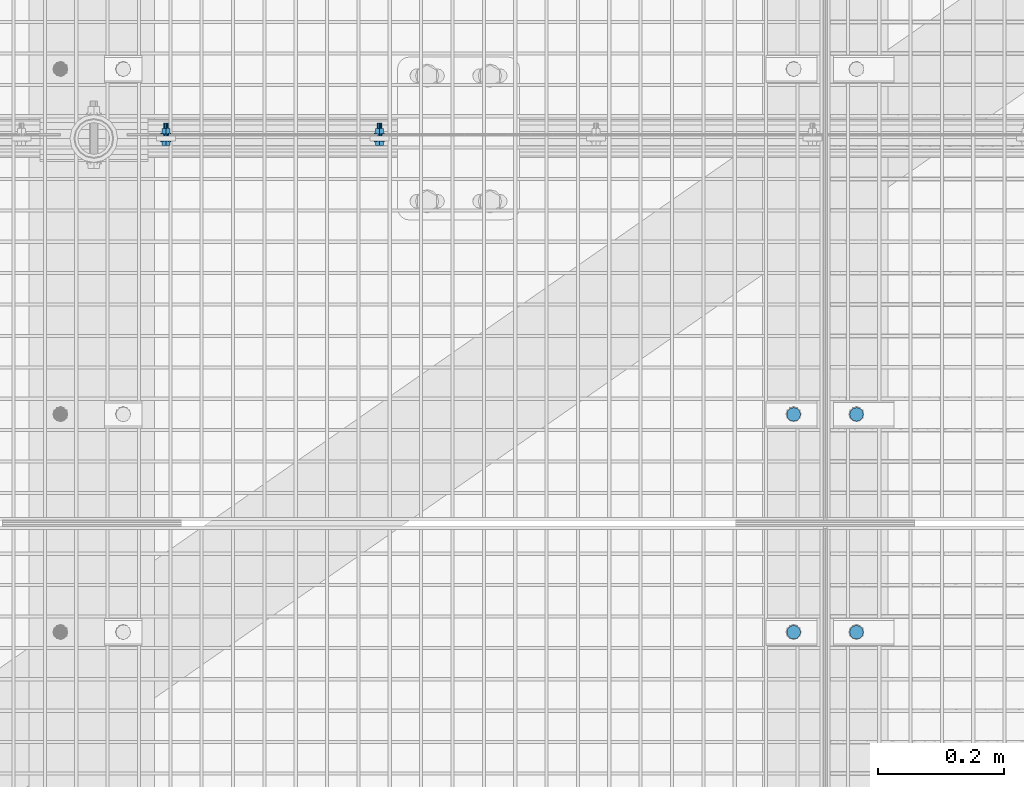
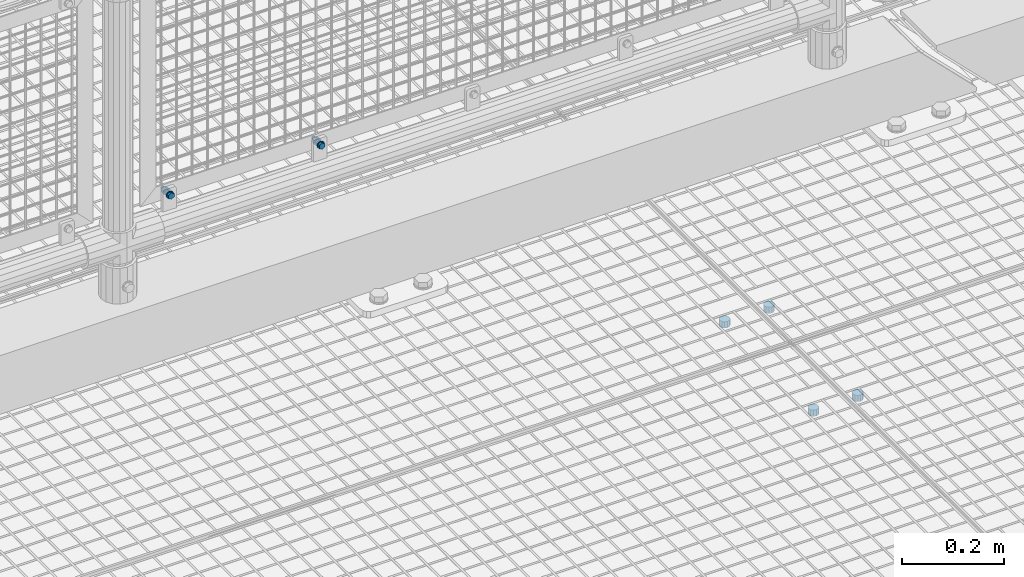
# One storey, part 99 of 1530: 6 mechanical fasteners.
"""IFC2X3 building model written with IfcOpenShell, lengths in millimetres."""

from ifc_helpers import new_model, si_unit, frame, origin_with_axes, place, context, subcontext, project, spatial, faceted_brep, source, transform, mapped, material, type_object, element, save


model = new_model("IFC2X3")

# Units and contexts
model_context = context("Model", 3, precision=1e-05, world=origin_with_axes())
body_context = subcontext(model_context, "Body", "Model", "MODEL_VIEW")
ifc_project = project(units=[si_unit("LENGTHUNIT", "METRE", prefix="MILLI"), si_unit("AREAUNIT", "SQUARE_METRE"), si_unit("VOLUMEUNIT", "CUBIC_METRE"), si_unit("MASSUNIT", "GRAM", prefix="KILO"), si_unit("TIMEUNIT", "SECOND"), si_unit("PLANEANGLEUNIT", "RADIAN"), si_unit("SOLIDANGLEUNIT", "STERADIAN"), si_unit("THERMODYNAMICTEMPERATUREUNIT", "DEGREE_CELSIUS"), si_unit("LUMINOUSINTENSITYUNIT", "LUMEN")], contexts=[model_context])

# Site, building, storey
site_placement = place(None, origin_with_axes())
site = spatial("IfcSite", under=ifc_project, at=site_placement, Name="Brattvåg", CompositionType="ELEMENT")
building_placement = place(site_placement, origin_with_axes())
building = spatial("IfcBuilding", under=site, at=building_placement, Name="Undefined", CompositionType="ELEMENT")
storey_placement = place(building_placement, origin_with_axes())
storey = spatial("IfcBuildingStorey", under=building, at=storey_placement, Name="Undefined", CompositionType="ELEMENT", Elevation=0.0)

# Mechanical fasteners
ifc_material = material(Name="8")
mechanical_fastener_type = type_object("IfcMechanicalFastenerType", Name="Bolt assembly")
shared_shape_1 = source(origin_with_axes(), body_context, "Body", "Brep", [
    faceted_brep([(11.0, -4.99999999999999, 0.0), (9.52627944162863, -4.99999999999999, 5.50000000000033), (5.49999999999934, -4.99999999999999, 9.5262794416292), (-1.13996957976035e-12, -4.99999999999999, 11.0), (-5.50000000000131, -4.99999999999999, 9.52627944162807), (-9.52627944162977, -4.99999999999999, 5.49999999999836), (-11.0, -4.99999999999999, -2.27993915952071e-12), (-9.5262794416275, -4.99999999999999, -5.5000000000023), (-5.49999999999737, -4.99999999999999, -9.52627944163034), (3.40769628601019e-12, -4.99999999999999, -11.0), (5.50000000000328, -4.99999999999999, -9.52627944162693), (9.52627944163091, -4.99999999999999, -5.49999999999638), (9.52627944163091, 10.1, -5.49999999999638), (5.50000000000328, 10.1, -9.52627944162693), (3.40769628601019e-12, 10.1, -11.0), (-5.49999999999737, 10.1, -9.52627944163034), (-9.5262794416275, 10.1, -5.5000000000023), (-11.0, 10.1, -2.27993915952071e-12), (-9.52627944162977, 10.1, 5.49999999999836), (-5.50000000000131, 10.1, 9.52627944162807), (-1.13996957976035e-12, 10.1, 11.0), (5.49999999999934, 10.1, 9.5262794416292), (9.52627944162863, 10.1, 5.50000000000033), (11.0, 10.1, 0.0)], [[[0, 1, 2, 3, 4, 5, 6, 7, 8, 9, 10, 11]], [[12, 13, 14, 15, 16, 17, 18, 19, 20, 21, 22, 23]], [[0, 23, 22, 1]], [[1, 22, 21, 2]], [[2, 21, 20, 3]], [[3, 20, 19, 4]], [[4, 19, 18, 5]], [[5, 18, 17, 6]], [[6, 17, 16, 7]], [[7, 16, 15, 8]], [[8, 15, 14, 9]], [[9, 14, 13, 10]], [[10, 13, 12, 11]], [[11, 12, 23, 0]]]),
])
for number, where, z_axis, x_axis, name in (
    (1, (14636.0047793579, 7224.91931152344, -35.0), (0.0, 1.0, 0.0), (1.0, 0.0, 0.0), "Bolt assembly"),
    (2, (14636.0047793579, 6877.99411010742, -35.0), (0.0, 1.0, 0.0), (1.0, 0.0, 0.0), "Bolt assembly"),
    (3, (14536.0148773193, 7224.9904864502, -35.0), (0.0, -1.0, 0.0), (-1.0, 1.99999855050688e-09, 0.0), "Bolt assembly"),
    (4, (14536.0148773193, 6877.99411010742, -35.0), (0.0, -1.0, 0.0), (-1.0, 1.99999855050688e-09, 0.0), "Bolt assembly"),
):
    element("IfcMechanicalFastener", number, at=place(storey_placement, frame(where, z_axis=z_axis, x_axis=x_axis)), inside=storey, type_object=mechanical_fastener_type, material=ifc_material, Name=name, NominalDiameter=20.0, NominalLength=15.0, context=body_context, shape_type="MappedRepresentation", body=[
        mapped(shared_shape_1, transform((0.0, 0.0, 0.0))),
    ])
shared_shape_2 = source(origin_with_axes(), body_context, "Body", "Brep", [
    faceted_brep([(7.50555349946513, -6.899000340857, 0.0), (3.75277674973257, -6.899000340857, 6.5), (-3.75277674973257, -6.899000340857, 6.5), (-7.50555349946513, -6.899000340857, 9.19165206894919e-16), (-3.75277674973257, -6.899000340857, -6.5), (3.75277674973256, -6.899000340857, -6.5), (3.75277674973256, -1.59900015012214, -6.5), (-3.75277674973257, -1.59900015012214, -6.5), (-7.50555349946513, -1.59900015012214, 9.19165206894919e-16), (-3.75277674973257, -1.59900015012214, 6.5), (3.75277674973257, -1.59900015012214, 6.5), (7.50555349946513, -1.59900015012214, 0.0), (4.0, -1.59900015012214, 0.0), (3.46410161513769, -1.59900015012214, 2.00000000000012), (1.99999999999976, -1.59900015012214, 3.46410161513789), (-4.14534392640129e-13, -1.59900015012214, 4.0), (-2.00000000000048, -1.59900015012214, 3.46410161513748), (-3.4641016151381, -1.59900015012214, 1.9999999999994), (-4.0, -1.59900015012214, -8.29068785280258e-13), (-3.46410161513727, -1.59900015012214, -2.00000000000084), (-1.99999999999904, -1.59900015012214, -3.46410161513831), (1.23916228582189e-12, -1.59900015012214, -4.0), (2.00000000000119, -1.59900015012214, -3.46410161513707), (3.46410161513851, -1.59900015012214, -1.99999999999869), (3.46410161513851, 28.4009998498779, -1.99999999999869), (2.00000000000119, 28.4009998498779, -3.46410161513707), (1.23916228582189e-12, 28.4009998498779, -4.0), (-1.99999999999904, 28.4009998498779, -3.46410161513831), (-3.46410161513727, 28.4009998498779, -2.00000000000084), (-4.0, 28.4009998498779, -8.29068785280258e-13), (-3.4641016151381, 28.4009998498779, 1.9999999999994), (-2.00000000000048, 28.4009998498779, 3.46410161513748), (-4.14534392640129e-13, 28.4009998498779, 4.0), (1.99999999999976, 28.4009998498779, 3.46410161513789), (3.46410161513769, 28.4009998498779, 2.00000000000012), (4.0, 28.4009998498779, 0.0), (8.5, -1.59900015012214, 0.0), (7.36121593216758, -1.59900015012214, 4.25000000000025), (4.24999999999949, -1.59900015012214, 7.36121593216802), (-8.80885584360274e-13, -1.59900015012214, 8.5), (-4.25000000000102, -1.59900015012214, 7.36121593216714), (-7.36121593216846, -1.59900015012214, 4.24999999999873), (-8.5, -1.59900015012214, -1.76177116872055e-12), (-7.3612159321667, -1.59900015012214, -4.25000000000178), (-4.24999999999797, -1.59900015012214, -7.3612159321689), (2.63321985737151e-12, -1.59900015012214, -8.5), (4.25000000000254, -1.59900015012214, -7.36121593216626), (7.36121593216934, -1.59900015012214, -4.24999999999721), (7.36121593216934, 0.000999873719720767, -4.24999999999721), (4.25000000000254, 0.000999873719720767, -7.36121593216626), (2.63321985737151e-12, 0.000999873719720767, -8.5), (-4.24999999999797, 0.000999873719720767, -7.3612159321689), (-7.3612159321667, 0.000999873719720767, -4.25000000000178), (-8.5, 0.000999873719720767, -1.76177116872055e-12), (-7.36121593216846, 0.000999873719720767, 4.24999999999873), (-4.25000000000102, 0.000999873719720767, 7.36121593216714), (-8.80885584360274e-13, 0.000999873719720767, 8.5), (4.24999999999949, 0.000999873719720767, 7.36121593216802), (7.36121593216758, 0.000999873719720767, 4.25000000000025), (8.5, 0.000999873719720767, 0.0), (8.5, 11.5044159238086, 0.0), (7.36121593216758, 11.5044159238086, 4.25000000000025), (4.24999999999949, 11.5044159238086, 7.36121593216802), (-8.80885584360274e-13, 11.5044159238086, 8.5), (-4.25000000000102, 11.5044159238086, 7.36121593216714), (-7.36121593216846, 11.5044159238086, 4.24999999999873), (-8.5, 11.5044159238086, -1.76177116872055e-12), (-7.3612159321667, 11.5044159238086, -4.25000000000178), (-4.24999999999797, 11.5044159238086, -7.3612159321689), (2.63321985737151e-12, 11.5044159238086, -8.5), (4.25000000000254, 11.5044159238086, -7.36121593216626), (7.36121593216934, 11.5044159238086, -4.24999999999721), (7.36121593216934, 13.1044159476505, -4.24999999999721), (4.25000000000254, 13.1044159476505, -7.36121593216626), (2.63321985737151e-12, 13.1044159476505, -8.5), (-4.24999999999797, 13.1044159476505, -7.3612159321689), (-7.3612159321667, 13.1044159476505, -4.25000000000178), (-8.5, 13.1044159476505, -1.76177116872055e-12), (-7.36121593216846, 13.1044159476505, 4.24999999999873), (-4.25000000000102, 13.1044159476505, 7.36121593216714), (-8.80885584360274e-13, 13.1044159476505, 8.5), (4.24999999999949, 13.1044159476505, 7.36121593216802), (7.36121593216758, 13.1044159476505, 4.25000000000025), (8.5, 13.1044159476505, 0.0), (7.50555349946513, 13.1044159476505, 0.0), (3.75277674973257, 13.1044159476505, 6.5), (-3.75277674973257, 13.1044159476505, 6.5), (-7.50555349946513, 13.1044159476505, 9.19165206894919e-16), (-3.75277674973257, 13.1044159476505, -6.5), (3.75277674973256, 13.1044159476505, -6.5), (3.75277674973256, 19.9044161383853, -6.5), (-3.75277674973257, 19.9044161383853, -6.5), (-7.50555349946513, 19.9044161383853, 9.19165206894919e-16), (-3.75277674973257, 19.9044161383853, 6.5), (3.75277674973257, 19.9044161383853, 6.5), (7.50555349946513, 19.9044161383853, 0.0)], [[[0, 1, 2, 3, 4, 5]], [[6, 7, 8, 9, 10, 11]], [[0, 11, 10, 1]], [[1, 10, 9, 2]], [[2, 9, 8, 3]], [[3, 8, 7, 4]], [[4, 7, 6, 5]], [[5, 6, 11, 0]], [[12, 13, 14, 15, 16, 17, 18, 19, 20, 21, 22, 23]], [[24, 25, 26, 27, 28, 29, 30, 31, 32, 33, 34, 35]], [[12, 35, 34, 13]], [[13, 34, 33, 14]], [[14, 33, 32, 15]], [[15, 32, 31, 16]], [[16, 31, 30, 17]], [[17, 30, 29, 18]], [[18, 29, 28, 19]], [[19, 28, 27, 20]], [[20, 27, 26, 21]], [[21, 26, 25, 22]], [[22, 25, 24, 23]], [[23, 24, 35, 12]], [[36, 37, 38, 39, 40, 41, 42, 43, 44, 45, 46, 47]], [[48, 49, 50, 51, 52, 53, 54, 55, 56, 57, 58, 59]], [[36, 59, 58, 37]], [[37, 58, 57, 38]], [[38, 57, 56, 39]], [[39, 56, 55, 40]], [[40, 55, 54, 41]], [[41, 54, 53, 42]], [[42, 53, 52, 43]], [[43, 52, 51, 44]], [[44, 51, 50, 45]], [[45, 50, 49, 46]], [[46, 49, 48, 47]], [[47, 48, 59, 36]], [[60, 61, 62, 63, 64, 65, 66, 67, 68, 69, 70, 71]], [[72, 73, 74, 75, 76, 77, 78, 79, 80, 81, 82, 83]], [[60, 83, 82, 61]], [[61, 82, 81, 62]], [[62, 81, 80, 63]], [[63, 80, 79, 64]], [[64, 79, 78, 65]], [[65, 78, 77, 66]], [[66, 77, 76, 67]], [[67, 76, 75, 68]], [[68, 75, 74, 69]], [[69, 74, 73, 70]], [[70, 73, 72, 71]], [[71, 72, 83, 60]], [[84, 85, 86, 87, 88, 89]], [[90, 91, 92, 93, 94, 95]], [[84, 95, 94, 85]], [[85, 94, 93, 86]], [[86, 93, 92, 87]], [[87, 92, 91, 88]], [[88, 91, 90, 89]], [[89, 90, 95, 84]]]),
    faceted_brep([(5.0, 0.100999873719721, 0.0), (4.33012701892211, 0.100999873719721, 2.50000000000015), (2.4999999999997, 0.100999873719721, 4.33012701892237), (-5.18167990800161e-13, 0.100999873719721, 5.0), (-2.5000000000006, 0.100999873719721, 4.33012701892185), (-4.33012701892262, 0.100999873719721, 2.49999999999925), (-5.0, 0.100999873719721, -1.03633598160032e-12), (-4.33012701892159, 0.100999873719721, -2.50000000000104), (-2.49999999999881, 0.100999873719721, -4.33012701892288), (1.54895285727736e-12, 0.100999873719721, -5.0), (2.50000000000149, 0.100999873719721, -4.33012701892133), (4.33012701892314, 0.100999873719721, -2.49999999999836), (4.33012701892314, 8.10099988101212, -2.49999999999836), (2.50000000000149, 8.10099988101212, -4.33012701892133), (1.54895285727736e-12, 8.10099988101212, -5.0), (-2.49999999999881, 8.10099988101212, -4.33012701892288), (-4.33012701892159, 8.10099988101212, -2.50000000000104), (-5.0, 8.10099988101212, -1.03633598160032e-12), (-4.33012701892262, 8.10099988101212, 2.49999999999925), (-2.5000000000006, 8.10099988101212, 4.33012701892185), (-5.18167990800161e-13, 8.10099988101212, 5.0), (2.4999999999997, 8.10099988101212, 4.33012701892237), (4.33012701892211, 8.10099988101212, 2.50000000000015), (5.0, 8.10099988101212, 0.0), (5.0, 8.40441592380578, 0.0), (4.33012701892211, 8.40441592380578, 2.50000000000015), (2.4999999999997, 8.40441592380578, 4.33012701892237), (-5.18167990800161e-13, 8.40441592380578, 5.0), (-2.5000000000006, 8.40441592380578, 4.33012701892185), (-4.33012701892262, 8.40441592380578, 2.49999999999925), (-5.0, 8.40441592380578, -1.03633598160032e-12), (-4.33012701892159, 8.40441592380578, -2.50000000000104), (-2.49999999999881, 8.40441592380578, -4.33012701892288), (1.54895285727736e-12, 8.40441592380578, -5.0), (2.50000000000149, 8.40441592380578, -4.33012701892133), (4.33012701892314, 8.40441592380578, -2.49999999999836), (4.33012701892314, 11.5044159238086, -2.49999999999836), (2.50000000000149, 11.5044159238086, -4.33012701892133), (1.54895285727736e-12, 11.5044159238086, -5.0), (-2.49999999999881, 11.5044159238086, -4.33012701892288), (-4.33012701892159, 11.5044159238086, -2.50000000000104), (-5.0, 11.5044159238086, -1.03633598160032e-12), (-4.33012701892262, 11.5044159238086, 2.49999999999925), (-2.5000000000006, 11.5044159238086, 4.33012701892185), (-5.18167990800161e-13, 11.5044159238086, 5.0), (2.4999999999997, 11.5044159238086, 4.33012701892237), (4.33012701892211, 11.5044159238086, 2.50000000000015), (5.0, 11.5044159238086, 0.0)], [[[0, 1, 2, 3, 4, 5, 6, 7, 8, 9, 10, 11]], [[12, 13, 14, 15, 16, 17, 18, 19, 20, 21, 22, 23]], [[0, 23, 22, 1]], [[1, 22, 21, 2]], [[2, 21, 20, 3]], [[3, 20, 19, 4]], [[4, 19, 18, 5]], [[5, 18, 17, 6]], [[6, 17, 16, 7]], [[7, 16, 15, 8]], [[8, 15, 14, 9]], [[9, 14, 13, 10]], [[10, 13, 12, 11]], [[11, 12, 23, 0]], [[24, 25, 26, 27, 28, 29, 30, 31, 32, 33, 34, 35]], [[36, 37, 38, 39, 40, 41, 42, 43, 44, 45, 46, 47]], [[24, 47, 46, 25]], [[25, 46, 45, 26]], [[26, 45, 44, 27]], [[27, 44, 43, 28]], [[28, 43, 42, 29]], [[29, 42, 41, 30]], [[30, 41, 40, 31]], [[31, 40, 39, 32]], [[32, 39, 38, 33]], [[33, 38, 37, 34]], [[34, 37, 36, 35]], [[35, 36, 47, 24]]]),
])
mechanical_fastener_1_placement = place(storey_placement, frame((13535.8506088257, 7660.49843978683, 352.299672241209), z_axis=(-1.0, 1.99999855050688e-09, 0.0), x_axis=(0.0, 0.0, 1.0)))
element("IfcMechanicalFastener", 5, at=mechanical_fastener_1_placement, inside=storey, type_object=mechanical_fastener_type, material=ifc_material, Name="Bolt assembly", NominalDiameter=8.0, NominalLength=30.0, context=body_context, shape_type="MappedRepresentation", body=[
    mapped(shared_shape_2, transform((0.0, 0.0, 0.0))),
])
shared_shape_3 = source(origin_with_axes(), body_context, "Body", "Brep", [
    faceted_brep([(7.50555349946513, -6.899000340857, 0.0), (3.75277674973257, -6.899000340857, 6.5), (-3.75277674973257, -6.899000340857, 6.5), (-7.50555349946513, -6.899000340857, 9.19165206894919e-16), (-3.75277674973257, -6.899000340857, -6.5), (3.75277674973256, -6.899000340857, -6.5), (3.75277674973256, -1.59900015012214, -6.5), (-3.75277674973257, -1.59900015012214, -6.5), (-7.50555349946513, -1.59900015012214, 9.19165206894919e-16), (-3.75277674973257, -1.59900015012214, 6.5), (3.75277674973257, -1.59900015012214, 6.5), (7.50555349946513, -1.59900015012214, 0.0), (4.0, -1.59900015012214, 0.0), (3.46410161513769, -1.59900015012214, 2.00000000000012), (1.99999999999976, -1.59900015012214, 3.46410161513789), (-4.14534392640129e-13, -1.59900015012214, 4.0), (-2.00000000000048, -1.59900015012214, 3.46410161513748), (-3.4641016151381, -1.59900015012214, 1.9999999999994), (-4.0, -1.59900015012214, -8.29068785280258e-13), (-3.46410161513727, -1.59900015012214, -2.00000000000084), (-1.99999999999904, -1.59900015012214, -3.46410161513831), (1.23916228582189e-12, -1.59900015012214, -4.0), (2.00000000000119, -1.59900015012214, -3.46410161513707), (3.46410161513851, -1.59900015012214, -1.99999999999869), (3.46410161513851, 28.4009998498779, -1.99999999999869), (2.00000000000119, 28.4009998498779, -3.46410161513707), (1.23916228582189e-12, 28.4009998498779, -4.0), (-1.99999999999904, 28.4009998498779, -3.46410161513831), (-3.46410161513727, 28.4009998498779, -2.00000000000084), (-4.0, 28.4009998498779, -8.29068785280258e-13), (-3.4641016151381, 28.4009998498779, 1.9999999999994), (-2.00000000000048, 28.4009998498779, 3.46410161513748), (-4.14534392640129e-13, 28.4009998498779, 4.0), (1.99999999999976, 28.4009998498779, 3.46410161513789), (3.46410161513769, 28.4009998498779, 2.00000000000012), (4.0, 28.4009998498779, 0.0), (8.5, -1.59900015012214, 0.0), (7.36121593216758, -1.59900015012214, 4.25000000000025), (4.24999999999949, -1.59900015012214, 7.36121593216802), (-8.80885584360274e-13, -1.59900015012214, 8.5), (-4.25000000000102, -1.59900015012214, 7.36121593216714), (-7.36121593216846, -1.59900015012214, 4.24999999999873), (-8.5, -1.59900015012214, -1.76177116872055e-12), (-7.3612159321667, -1.59900015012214, -4.25000000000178), (-4.24999999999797, -1.59900015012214, -7.3612159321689), (2.63321985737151e-12, -1.59900015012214, -8.5), (4.25000000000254, -1.59900015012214, -7.36121593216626), (7.36121593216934, -1.59900015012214, -4.24999999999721), (7.36121593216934, 0.000999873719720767, -4.24999999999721), (4.25000000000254, 0.000999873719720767, -7.36121593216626), (2.63321985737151e-12, 0.000999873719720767, -8.5), (-4.24999999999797, 0.000999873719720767, -7.3612159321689), (-7.3612159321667, 0.000999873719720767, -4.25000000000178), (-8.5, 0.000999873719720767, -1.76177116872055e-12), (-7.36121593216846, 0.000999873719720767, 4.24999999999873), (-4.25000000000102, 0.000999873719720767, 7.36121593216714), (-8.80885584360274e-13, 0.000999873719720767, 8.5), (4.24999999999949, 0.000999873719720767, 7.36121593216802), (7.36121593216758, 0.000999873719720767, 4.25000000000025), (8.5, 0.000999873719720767, 0.0), (8.5, 11.5039814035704, 0.0), (7.36121593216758, 11.5039814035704, 4.25000000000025), (4.24999999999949, 11.5039814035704, 7.36121593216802), (-8.80885584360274e-13, 11.5039814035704, 8.5), (-4.25000000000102, 11.5039814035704, 7.36121593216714), (-7.36121593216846, 11.5039814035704, 4.24999999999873), (-8.5, 11.5039814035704, -1.76177116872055e-12), (-7.3612159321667, 11.5039814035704, -4.25000000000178), (-4.24999999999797, 11.5039814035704, -7.3612159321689), (2.63321985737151e-12, 11.5039814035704, -8.5), (4.25000000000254, 11.5039814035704, -7.36121593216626), (7.36121593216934, 11.5039814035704, -4.24999999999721), (7.36121593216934, 13.1039814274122, -4.24999999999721), (4.25000000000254, 13.1039814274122, -7.36121593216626), (2.63321985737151e-12, 13.1039814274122, -8.5), (-4.24999999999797, 13.1039814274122, -7.3612159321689), (-7.3612159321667, 13.1039814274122, -4.25000000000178), (-8.5, 13.1039814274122, -1.76177116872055e-12), (-7.36121593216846, 13.1039814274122, 4.24999999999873), (-4.25000000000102, 13.1039814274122, 7.36121593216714), (-8.80885584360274e-13, 13.1039814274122, 8.5), (4.24999999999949, 13.1039814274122, 7.36121593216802), (7.36121593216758, 13.1039814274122, 4.25000000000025), (8.5, 13.1039814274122, 0.0), (7.50555349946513, 13.1039814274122, 0.0), (3.75277674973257, 13.1039814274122, 6.5), (-3.75277674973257, 13.1039814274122, 6.5), (-7.50555349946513, 13.1039814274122, 9.19165206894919e-16), (-3.75277674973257, 13.1039814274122, -6.5), (3.75277674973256, 13.1039814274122, -6.5), (3.75277674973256, 19.9039816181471, -6.5), (-3.75277674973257, 19.9039816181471, -6.5), (-7.50555349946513, 19.9039816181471, 9.19165206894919e-16), (-3.75277674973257, 19.9039816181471, 6.5), (3.75277674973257, 19.9039816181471, 6.5), (7.50555349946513, 19.9039816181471, 0.0)], [[[0, 1, 2, 3, 4, 5]], [[6, 7, 8, 9, 10, 11]], [[0, 11, 10, 1]], [[1, 10, 9, 2]], [[2, 9, 8, 3]], [[3, 8, 7, 4]], [[4, 7, 6, 5]], [[5, 6, 11, 0]], [[12, 13, 14, 15, 16, 17, 18, 19, 20, 21, 22, 23]], [[24, 25, 26, 27, 28, 29, 30, 31, 32, 33, 34, 35]], [[12, 35, 34, 13]], [[13, 34, 33, 14]], [[14, 33, 32, 15]], [[15, 32, 31, 16]], [[16, 31, 30, 17]], [[17, 30, 29, 18]], [[18, 29, 28, 19]], [[19, 28, 27, 20]], [[20, 27, 26, 21]], [[21, 26, 25, 22]], [[22, 25, 24, 23]], [[23, 24, 35, 12]], [[36, 37, 38, 39, 40, 41, 42, 43, 44, 45, 46, 47]], [[48, 49, 50, 51, 52, 53, 54, 55, 56, 57, 58, 59]], [[36, 59, 58, 37]], [[37, 58, 57, 38]], [[38, 57, 56, 39]], [[39, 56, 55, 40]], [[40, 55, 54, 41]], [[41, 54, 53, 42]], [[42, 53, 52, 43]], [[43, 52, 51, 44]], [[44, 51, 50, 45]], [[45, 50, 49, 46]], [[46, 49, 48, 47]], [[47, 48, 59, 36]], [[60, 61, 62, 63, 64, 65, 66, 67, 68, 69, 70, 71]], [[72, 73, 74, 75, 76, 77, 78, 79, 80, 81, 82, 83]], [[60, 83, 82, 61]], [[61, 82, 81, 62]], [[62, 81, 80, 63]], [[63, 80, 79, 64]], [[64, 79, 78, 65]], [[65, 78, 77, 66]], [[66, 77, 76, 67]], [[67, 76, 75, 68]], [[68, 75, 74, 69]], [[69, 74, 73, 70]], [[70, 73, 72, 71]], [[71, 72, 83, 60]], [[84, 85, 86, 87, 88, 89]], [[90, 91, 92, 93, 94, 95]], [[84, 95, 94, 85]], [[85, 94, 93, 86]], [[86, 93, 92, 87]], [[87, 92, 91, 88]], [[88, 91, 90, 89]], [[89, 90, 95, 84]]]),
    faceted_brep([(5.0, 0.100999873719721, 0.0), (4.33012701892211, 0.100999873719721, 2.50000000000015), (2.4999999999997, 0.100999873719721, 4.33012701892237), (-5.18167990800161e-13, 0.100999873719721, 5.0), (-2.5000000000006, 0.100999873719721, 4.33012701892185), (-4.33012701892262, 0.100999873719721, 2.49999999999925), (-5.0, 0.100999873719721, -1.03633598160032e-12), (-4.33012701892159, 0.100999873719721, -2.50000000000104), (-2.49999999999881, 0.100999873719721, -4.33012701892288), (1.54895285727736e-12, 0.100999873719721, -5.0), (2.50000000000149, 0.100999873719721, -4.33012701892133), (4.33012701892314, 0.100999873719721, -2.49999999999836), (4.33012701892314, 8.10099988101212, -2.49999999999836), (2.50000000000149, 8.10099988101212, -4.33012701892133), (1.54895285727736e-12, 8.10099988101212, -5.0), (-2.49999999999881, 8.10099988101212, -4.33012701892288), (-4.33012701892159, 8.10099988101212, -2.50000000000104), (-5.0, 8.10099988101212, -1.03633598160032e-12), (-4.33012701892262, 8.10099988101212, 2.49999999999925), (-2.5000000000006, 8.10099988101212, 4.33012701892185), (-5.18167990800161e-13, 8.10099988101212, 5.0), (2.4999999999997, 8.10099988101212, 4.33012701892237), (4.33012701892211, 8.10099988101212, 2.50000000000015), (5.0, 8.10099988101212, 0.0), (5.0, 8.40398140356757, 0.0), (4.33012701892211, 8.40398140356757, 2.50000000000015), (2.4999999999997, 8.40398140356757, 4.33012701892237), (-5.18167990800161e-13, 8.40398140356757, 5.0), (-2.5000000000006, 8.40398140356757, 4.33012701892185), (-4.33012701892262, 8.40398140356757, 2.49999999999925), (-5.0, 8.40398140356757, -1.03633598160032e-12), (-4.33012701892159, 8.40398140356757, -2.50000000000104), (-2.49999999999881, 8.40398140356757, -4.33012701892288), (1.54895285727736e-12, 8.40398140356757, -5.0), (2.50000000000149, 8.40398140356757, -4.33012701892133), (4.33012701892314, 8.40398140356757, -2.49999999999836), (4.33012701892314, 11.5039814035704, -2.49999999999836), (2.50000000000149, 11.5039814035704, -4.33012701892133), (1.54895285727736e-12, 11.5039814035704, -5.0), (-2.49999999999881, 11.5039814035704, -4.33012701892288), (-4.33012701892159, 11.5039814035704, -2.50000000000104), (-5.0, 11.5039814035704, -1.03633598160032e-12), (-4.33012701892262, 11.5039814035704, 2.49999999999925), (-2.5000000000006, 11.5039814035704, 4.33012701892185), (-5.18167990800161e-13, 11.5039814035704, 5.0), (2.4999999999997, 11.5039814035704, 4.33012701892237), (4.33012701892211, 11.5039814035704, 2.50000000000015), (5.0, 11.5039814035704, 0.0)], [[[0, 1, 2, 3, 4, 5, 6, 7, 8, 9, 10, 11]], [[12, 13, 14, 15, 16, 17, 18, 19, 20, 21, 22, 23]], [[0, 23, 22, 1]], [[1, 22, 21, 2]], [[2, 21, 20, 3]], [[3, 20, 19, 4]], [[4, 19, 18, 5]], [[5, 18, 17, 6]], [[6, 17, 16, 7]], [[7, 16, 15, 8]], [[8, 15, 14, 9]], [[9, 14, 13, 10]], [[10, 13, 12, 11]], [[11, 12, 23, 0]], [[24, 25, 26, 27, 28, 29, 30, 31, 32, 33, 34, 35]], [[36, 37, 38, 39, 40, 41, 42, 43, 44, 45, 46, 47]], [[24, 47, 46, 25]], [[25, 46, 45, 26]], [[26, 45, 44, 27]], [[27, 44, 43, 28]], [[28, 43, 42, 29]], [[29, 42, 41, 30]], [[30, 41, 40, 31]], [[31, 40, 39, 32]], [[32, 39, 38, 33]], [[33, 38, 37, 34]], [[34, 37, 36, 35]], [[35, 36, 47, 24]]]),
])
mechanical_fastener_2_placement = place(storey_placement, frame((13875.8507614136, 7660.49843978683, 352.299672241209), z_axis=(-1.0, 1.99999855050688e-09, 0.0), x_axis=(0.0, 0.0, 1.0)))
element("IfcMechanicalFastener", 6, at=mechanical_fastener_2_placement, inside=storey, type_object=mechanical_fastener_type, material=ifc_material, Name="Bolt assembly", NominalDiameter=8.0, NominalLength=30.0, context=body_context, shape_type="MappedRepresentation", body=[
    mapped(shared_shape_3, transform((0.0, 0.0, 0.0))),
])

save(model, "model.ifc")
